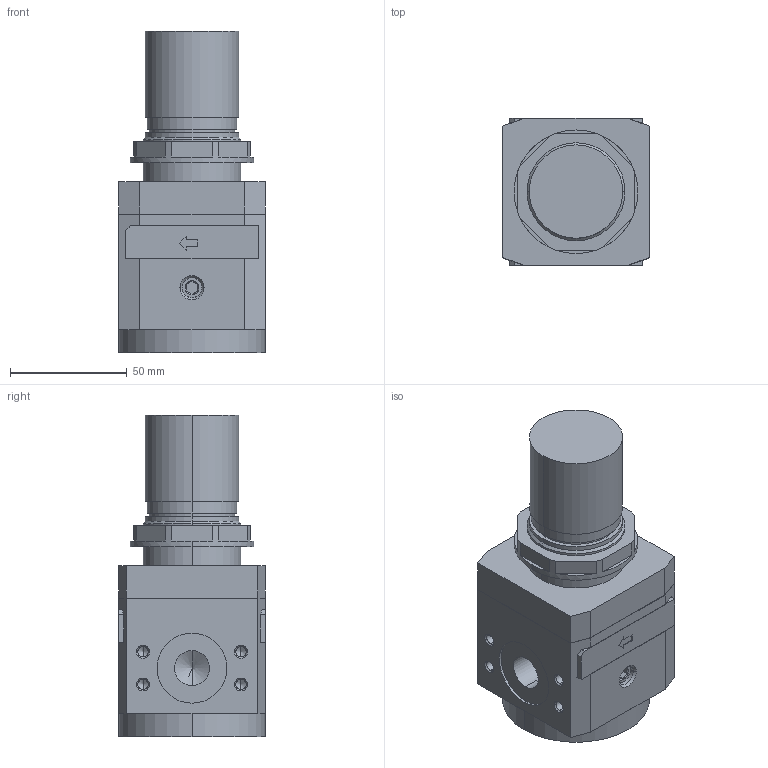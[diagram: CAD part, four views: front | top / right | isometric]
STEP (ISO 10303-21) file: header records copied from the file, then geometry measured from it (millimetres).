
FILE_DESCRIPTION((''),'2;1');
FILE_NAME('I:\DOC-EDP\Lib-3d\FRL\17302A_.stp','2003-06-16T14:57:48',('maffial1'),(''),'Autodesk Inventor 7','Autodesk Inventor 7','');
FILE_SCHEMA(('AUTOMOTIVE_DESIGN { 1 0 10303 214 1 1 1 1 }'));
Length unit declared in the file: millimetre
Products named in the file (4): 17302A_; 17302A_(1); RS_1702_12; RK_1701_020
Assembly tree (3 placements, depth 2):
  17302A_
    17302A_(1)
    RS_1702_12
    RK_1701_020
Bounding box: 63 x 63 x 138 mm (x, y, z)
Volume: 356616.6 mm3; surface area: 49154.9 mm2
Topology: 3 solids, 5 shells, 217 faces, 521 edges, 315 vertices
Faces by surface type: bspline 96, plane 79, cylinder 26, cone 12, torus 4
Entity records: 7118 total; most frequent: CARTESIAN_POINT 2356, ORIENTED_EDGE 994, DIRECTION 906, EDGE_CURVE 497, VECTOR 320, LINE 320, VERTEX_POINT 315, AXIS2_PLACEMENT_3D 293
